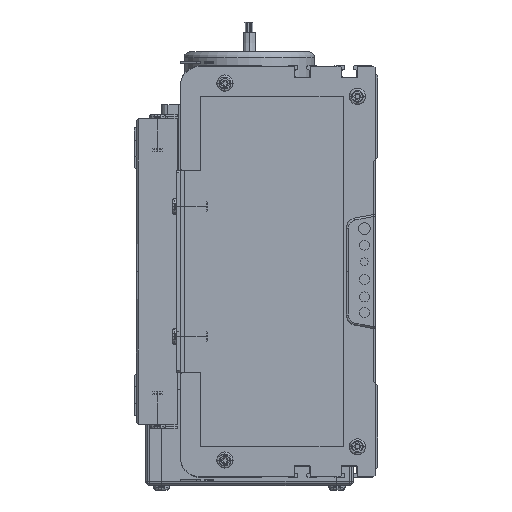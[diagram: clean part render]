
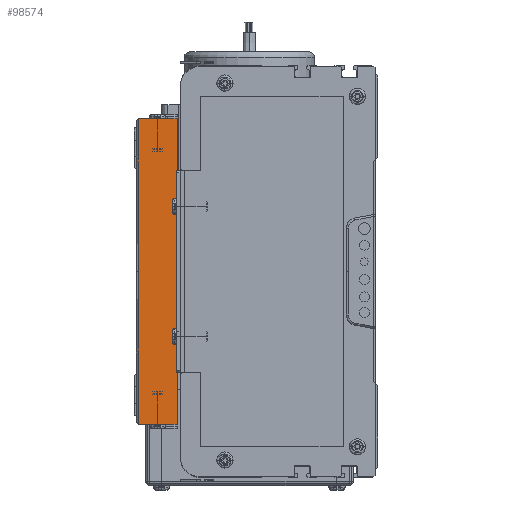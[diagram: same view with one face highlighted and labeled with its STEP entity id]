
A CAD part, left-side view. The second image highlights one B-rep face of the part: STEP entity #98574.
In plain terms, the highlighted planar face has unit normal (-1, 0, 0).
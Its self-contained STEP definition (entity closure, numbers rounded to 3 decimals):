
#34735 = CARTESIAN_POINT ( 'NONE',  ( 0., 19., -75. ) ) ;
#35195 = CARTESIAN_POINT ( 'NONE',  ( 0., 19., 75. ) ) ;
#35808 = DIRECTION ( 'NONE',  ( 0., 0., -1. ) ) ;
#35810 = VECTOR ( 'NONE', #35808, 1000. ) ;
#35825 = CARTESIAN_POINT ( 'NONE',  ( 0., 19., 0. ) ) ;
#35827 = LINE ( 'NONE', #35825, #35810 ) ;
#35995 = CARTESIAN_POINT ( 'NONE',  ( 0., 19., 0. ) ) ;
#36765 = DIRECTION ( 'NONE',  ( 0., -1., 0. ) ) ;
#36766 = VECTOR ( 'NONE', #36765, 1000. ) ;
#36767 = CARTESIAN_POINT ( 'NONE',  ( 0., 20., 75. ) ) ;
#36769 = LINE ( 'NONE', #36767, #36766 ) ;
#85382 = CARTESIAN_POINT ( 'NONE',  ( 0., 20., -75. ) ) ;
#85385 = LINE ( 'NONE', #85382, #85502 ) ;
#85501 = DIRECTION ( 'NONE',  ( 0., -1., 0. ) ) ;
#85502 = VECTOR ( 'NONE', #85501, 1000. ) ;
#85520 = DIRECTION ( 'NONE',  ( 1., 0., 0. ) ) ;
#85583 = DIRECTION ( 'NONE',  ( 0., 0., -1. ) ) ;
#85640 = AXIS2_PLACEMENT_3D ( 'NONE', #85644, #85520, #85583 ) ;
#85644 = CARTESIAN_POINT ( 'NONE',  ( 0., 20., 0. ) ) ;
#85707 = PLANE ( 'NONE',  #85640 ) ;
#85790 = FACE_OUTER_BOUND ( 'NONE', #98613, .T. ) ;
#86097 = DIRECTION ( 'NONE',  ( 0., 0., -1. ) ) ;
#86098 = VECTOR ( 'NONE', #86097, 1000. ) ;
#86100 = CARTESIAN_POINT ( 'NONE',  ( 0., 19., 0. ) ) ;
#86139 = LINE ( 'NONE', #86100, #86098 ) ;
#98235 = EDGE_CURVE ( 'NONE', #98240, #98236, #130201, .T. ) ;
#98236 = VERTEX_POINT ( 'NONE', #130152 ) ;
#98240 = VERTEX_POINT ( 'NONE', #131045 ) ;
#98340 = ORIENTED_EDGE ( 'NONE', *, *, #98497, .T. ) ;
#98437 = ORIENTED_EDGE ( 'NONE', *, *, #98540, .T. ) ;
#98440 = VERTEX_POINT ( 'NONE', #34735 ) ;
#98446 = VERTEX_POINT ( 'NONE', #35195 ) ;
#98492 = ORIENTED_EDGE ( 'NONE', *, *, #98518, .F. ) ;
#98493 = VERTEX_POINT ( 'NONE', #35995 ) ;
#98495 = ORIENTED_EDGE ( 'NONE', *, *, #98617, .T. ) ;
#98497 = EDGE_CURVE ( 'NONE', #98493, #98440, #35827, .T. ) ;
#98518 = EDGE_CURVE ( 'NONE', #98446, #98236, #36769, .T. ) ;
#98540 = EDGE_CURVE ( 'NONE', #98440, #98240, #85385, .T. ) ;
#98574 = ADVANCED_FACE ( 'NONE', ( #85790 ), #85707, .F. ) ;
#98613 = EDGE_LOOP ( 'NONE', ( #98492, #98495, #98340, #98437, #98618 ) ) ;
#98617 = EDGE_CURVE ( 'NONE', #98446, #98493, #86139, .T. ) ;
#98618 = ORIENTED_EDGE ( 'NONE', *, *, #98235, .T. ) ;
#130152 = CARTESIAN_POINT ( 'NONE',  ( 0., 0., 75. ) ) ;
#130172 = DIRECTION ( 'NONE',  ( 0., 0., 1. ) ) ;
#130194 = VECTOR ( 'NONE', #130172, 1000. ) ;
#130196 = CARTESIAN_POINT ( 'NONE',  ( 0., 0., 0. ) ) ;
#130201 = LINE ( 'NONE', #130196, #130194 ) ;
#131045 = CARTESIAN_POINT ( 'NONE',  ( 0., 0., -75. ) ) ;
